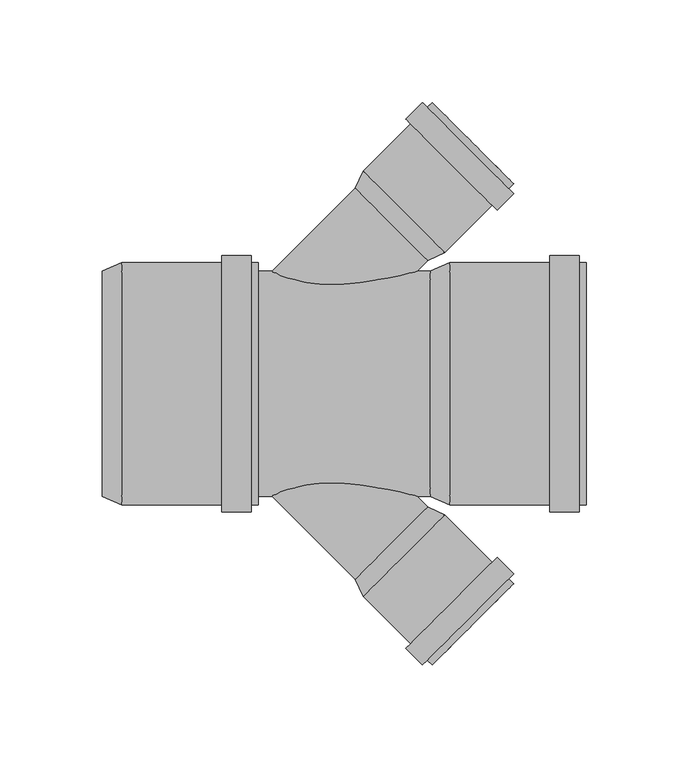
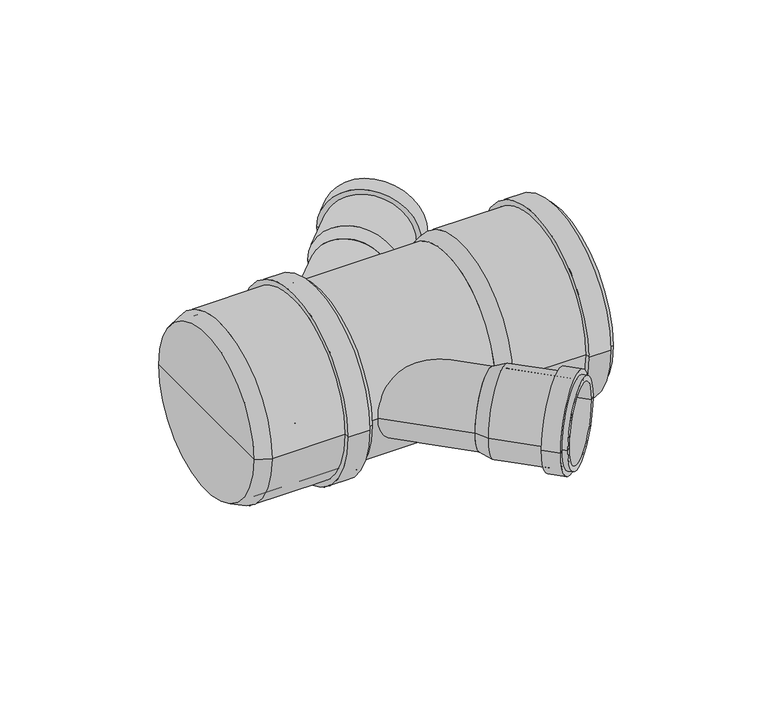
"""IFC4 building model written with IfcOpenShell, lengths in millimetres: pipe fitting geometry, pf_HTDA : pf_HTDA."""

from ifc_helpers import new_model, si_unit, point, frame, origin, origin_2d, place, context, project, spatial, polyline, circle_curve, trimmed, segment, composite_curve, outline, extrude, source, transform, mapped, element, save
from ifc_brep_helpers import plane_surface, cylinder_surface, revolved_surface, advanced_brep


def pipe_fitting_c0a3192c(model_context):
    return source(origin(), model_context, "Body", "SolidModel", [
        advanced_brep(
        [(95.5301261, 60.1747871, 0.0), (60.1747871, 95.5301261, 0.0), (63.9931637, 103.7325648, 0.0), (103.7325648, 63.9931637, 0.0), (77.8524566, 77.8524566, 0.0), (137.3201369, 97.5807358, 0.0), (97.5807358, 137.3201369, 0.0), (99.7727668, 135.1281059, 0.0), (135.1281059, 99.7727668, 0.0), (134.9159739, 95.1765727, 0.0), (95.1765727, 134.9159739, 0.0), (137.3201369, 92.7724097, 0.0), (92.7724097, 137.3201369, 0.0), (129.2591196, 84.7113924, 0.0), (84.7113924, 129.2591196, 0.0), (126.8549565, 87.1155554, 0.0), (87.1155554, 126.8549565, 0.0), (101.5405338, 66.1851947, 0.0), (66.1851947, 101.5405338, 0.0), (83.8628642, 83.8628642, 0.0)],
        [
            (0, 1, circle_curve(frame((77.8524566, 77.8524566, 0.0), z_axis=(0.707106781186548, 0.707106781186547, 0.0), x_axis=(-0.707106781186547, 0.707106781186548, 0.0)), 25.0)),
            (1, 2),
            (2, 3, circle_curve(frame((83.8628642, 83.8628642, 0.0), z_axis=(-0.707106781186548, -0.707106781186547, 0.0), x_axis=(-0.707106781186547, 0.707106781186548, 0.0)), 28.1)),
            (3, 0),
            (1, 0, circle_curve(frame((77.8524566, 77.8524566, 0.0), z_axis=(0.707106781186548, 0.707106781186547, 0.0), x_axis=(-0.707106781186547, 0.707106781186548, 0.0)), 25.0)),
            (3, 2, circle_curve(frame((83.8628642, 83.8628642, 0.0), z_axis=(-0.707106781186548, -0.707106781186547, 0.0), x_axis=(-0.707106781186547, 0.707106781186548, 0.0)), 28.1)),
            (4, 1),
            (0, 4),
            (5, 6, circle_curve(frame((117.4504364, 117.4504364, 0.0), z_axis=(0.707106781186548, 0.707106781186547, 0.0), x_axis=(-0.707106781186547, 0.707106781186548, 0.0)), 28.1)),
            (6, 7),
            (7, 8, circle_curve(frame((117.4504364, 117.4504364, 0.0), z_axis=(-0.707106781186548, -0.707106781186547, 0.0), x_axis=(-0.707106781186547, 0.707106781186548, 0.0)), 25.0)),
            (8, 5),
            (6, 5, circle_curve(frame((117.4504364, 117.4504364, 0.0), z_axis=(0.707106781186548, 0.707106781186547, 0.0), x_axis=(-0.707106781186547, 0.707106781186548, 0.0)), 28.1)),
            (8, 7, circle_curve(frame((117.4504364, 117.4504364, 0.0), z_axis=(-0.707106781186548, -0.707106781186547, 0.0), x_axis=(-0.707106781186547, 0.707106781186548, 0.0)), 25.0)),
            (9, 10, circle_curve(frame((115.0462733, 115.0462733, 0.0), z_axis=(0.707106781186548, 0.707106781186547, 0.0), x_axis=(-0.707106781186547, 0.707106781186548, 0.0)), 28.1)),
            (10, 6),
            (5, 9),
            (10, 9, circle_curve(frame((115.0462733, 115.0462733, 0.0), z_axis=(0.707106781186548, 0.707106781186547, 0.0), x_axis=(-0.707106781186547, 0.707106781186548, 0.0)), 28.1)),
            (11, 12, circle_curve(frame((115.0462733, 115.0462733, 0.0), z_axis=(0.707106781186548, 0.707106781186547, 0.0), x_axis=(-0.707106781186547, 0.707106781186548, 0.0)), 31.5)),
            (12, 10),
            (9, 11),
            (12, 11, circle_curve(frame((115.0462733, 115.0462733, 0.0), z_axis=(0.707106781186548, 0.707106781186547, 0.0), x_axis=(-0.707106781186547, 0.707106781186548, 0.0)), 31.5)),
            (13, 14, circle_curve(frame((106.985256, 106.985256, 0.0), z_axis=(0.707106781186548, 0.707106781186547, 0.0), x_axis=(-0.707106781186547, 0.707106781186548, 0.0)), 31.5)),
            (14, 12),
            (11, 13),
            (14, 13, circle_curve(frame((106.985256, 106.985256, 0.0), z_axis=(0.707106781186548, 0.707106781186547, 0.0), x_axis=(-0.707106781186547, 0.707106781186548, 0.0)), 31.5)),
            (15, 16, circle_curve(frame((106.985256, 106.985256, 0.0), z_axis=(0.707106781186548, 0.707106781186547, 0.0), x_axis=(-0.707106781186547, 0.707106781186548, 0.0)), 28.1)),
            (16, 14),
            (13, 15),
            (16, 15, circle_curve(frame((106.985256, 106.985256, 0.0), z_axis=(0.707106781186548, 0.707106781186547, 0.0), x_axis=(-0.707106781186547, 0.707106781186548, 0.0)), 28.1)),
            (2, 16),
            (15, 3),
            (17, 18, circle_curve(frame((83.8628642, 83.8628642, 0.0), z_axis=(0.707106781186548, 0.707106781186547, 0.0), x_axis=(-0.707106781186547, 0.707106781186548, 0.0)), 25.0)),
            (18, 19),
            (19, 17),
            (18, 17, circle_curve(frame((83.8628642, 83.8628642, 0.0), z_axis=(0.707106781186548, 0.707106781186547, 0.0), x_axis=(-0.707106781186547, 0.707106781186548, 0.0)), 25.0)),
            (7, 18),
            (17, 8),
        ],
        [
            revolved_surface(polyline([(63.9931637, 103.7325648, 0.0), (60.1747871, 95.5301261, 0.0)]), (77.8524566, 77.8524566, 0.0), (-0.707106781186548, -0.707106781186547, 0.0)),
            plane_surface(frame((77.8524566, 77.8524566, 0.0), z_axis=(-0.707106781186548, -0.707106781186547, 0.0), x_axis=(-0.707106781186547, 0.707106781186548, 0.0))),
            plane_surface(frame((117.4504364, 117.4504364, 0.0), z_axis=(0.707106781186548, 0.707106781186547, 0.0), x_axis=(-0.707106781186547, 0.707106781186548, 0.0))),
            cylinder_surface(frame((77.8524566, 77.8524566, 0.0), z_axis=(-0.707106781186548, -0.707106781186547, 0.0), x_axis=(-0.707106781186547, 0.707106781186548, 0.0)), 28.1),
            plane_surface(frame((115.0462733, 115.0462733, 0.0), z_axis=(0.707106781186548, 0.707106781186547, 0.0), x_axis=(-0.707106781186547, 0.707106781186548, 0.0))),
            cylinder_surface(frame((77.8524566, 77.8524566, 0.0), z_axis=(-0.707106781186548, -0.707106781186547, 0.0), x_axis=(-0.707106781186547, 0.707106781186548, 0.0)), 31.5),
            plane_surface(frame((106.985256, 106.985256, 0.0), z_axis=(-0.707106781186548, -0.707106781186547, 0.0), x_axis=(-0.707106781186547, 0.707106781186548, 0.0))),
            plane_surface(frame((83.8628642, 83.8628642, 0.0), z_axis=(0.707106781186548, 0.707106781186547, 0.0), x_axis=(-0.707106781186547, 0.707106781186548, 0.0))),
            revolved_surface(polyline([(66.18519467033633, 101.54053372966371, 0.0), (99.77276687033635, 135.12810592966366, 0.0)]), (77.8524566, 77.8524566, 0.0), (-0.707106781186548, -0.707106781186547, 0.0)),
        ],
        [
            (0, [[1, 2, 3, 4]]),
            (0, [[5, -4, 6, -2]]),
            (1, [[7, -1, 8]]),
            (1, [[-8, -5, -7]]),
            (2, [[9, 10, 11, 12]]),
            (2, [[13, -12, 14, -10]]),
            (3, [[15, 16, -9, 17]]),
            (3, [[18, -17, -13, -16]]),
            (4, [[19, 20, -15, 21]]),
            (4, [[22, -21, -18, -20]]),
            (5, [[23, 24, -19, 25]]),
            (5, [[26, -25, -22, -24]]),
            (6, [[27, 28, -23, 29]]),
            (6, [[30, -29, -26, -28]]),
            (3, [[-3, 31, -27, 32]]),
            (3, [[-6, -32, -30, -31]]),
            (7, [[33, 34, 35]]),
            (7, [[36, -35, -34]]),
            (8, [[-11, 37, -33, 38]]),
            (8, [[-14, -38, -36, -37]]),
        ],
    ),
        advanced_brep(
        [(60.1747871, -95.5301261, 0.0), (95.5301261, -60.1747871, 0.0), (103.7325648, -63.9931637, 0.0), (63.9931637, -103.7325648, 0.0), (77.8524566, -77.8524566, 0.0), (97.5807358, -137.3201369, 0.0), (137.3201369, -97.5807358, 0.0), (135.1281059, -99.7727668, 0.0), (99.7727668, -135.1281059, 0.0), (95.1765727, -134.9159739, 0.0), (134.9159739, -95.1765727, 0.0), (92.7724097, -137.3201369, 0.0), (137.3201369, -92.7724097, 0.0), (84.7113924, -129.2591196, 0.0), (129.2591196, -84.7113924, 0.0), (87.1155554, -126.8549565, 0.0), (126.8549565, -87.1155554, 0.0), (66.1851947, -101.5405338, 0.0), (101.5405338, -66.1851947, 0.0), (83.8628642, -83.8628642, 0.0)],
        [
            (0, 1, circle_curve(frame((77.8524566, -77.8524566, 0.0), z_axis=(0.7071067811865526, -0.7071067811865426, 0.0), x_axis=(0.7071067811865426, 0.7071067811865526, 0.0)), 25.0)),
            (1, 2),
            (2, 3, circle_curve(frame((83.8628642, -83.8628642, 0.0), z_axis=(-0.7071067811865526, 0.7071067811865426, 0.0), x_axis=(0.7071067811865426, 0.7071067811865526, 0.0)), 28.1)),
            (3, 0),
            (1, 0, circle_curve(frame((77.8524566, -77.8524566, 0.0), z_axis=(0.7071067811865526, -0.7071067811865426, 0.0), x_axis=(0.7071067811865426, 0.7071067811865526, 0.0)), 25.0)),
            (3, 2, circle_curve(frame((83.8628642, -83.8628642, 0.0), z_axis=(-0.7071067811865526, 0.7071067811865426, 0.0), x_axis=(0.7071067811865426, 0.7071067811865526, 0.0)), 28.1)),
            (4, 1),
            (0, 4),
            (5, 6, circle_curve(frame((117.4504364, -117.4504364, 0.0), z_axis=(0.7071067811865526, -0.7071067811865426, 0.0), x_axis=(0.7071067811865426, 0.7071067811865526, 0.0)), 28.1)),
            (6, 7),
            (7, 8, circle_curve(frame((117.4504364, -117.4504364, 0.0), z_axis=(-0.7071067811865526, 0.7071067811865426, 0.0), x_axis=(0.7071067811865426, 0.7071067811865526, 0.0)), 25.0)),
            (8, 5),
            (6, 5, circle_curve(frame((117.4504364, -117.4504364, 0.0), z_axis=(0.7071067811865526, -0.7071067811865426, 0.0), x_axis=(0.7071067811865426, 0.7071067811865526, 0.0)), 28.1)),
            (8, 7, circle_curve(frame((117.4504364, -117.4504364, 0.0), z_axis=(-0.7071067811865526, 0.7071067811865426, 0.0), x_axis=(0.7071067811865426, 0.7071067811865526, 0.0)), 25.0)),
            (9, 10, circle_curve(frame((115.0462733, -115.0462733, 0.0), z_axis=(0.7071067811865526, -0.7071067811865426, 0.0), x_axis=(0.7071067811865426, 0.7071067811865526, 0.0)), 28.1)),
            (10, 6),
            (5, 9),
            (10, 9, circle_curve(frame((115.0462733, -115.0462733, 0.0), z_axis=(0.7071067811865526, -0.7071067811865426, 0.0), x_axis=(0.7071067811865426, 0.7071067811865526, 0.0)), 28.1)),
            (11, 12, circle_curve(frame((115.0462733, -115.0462733, 0.0), z_axis=(0.7071067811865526, -0.7071067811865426, 0.0), x_axis=(0.7071067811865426, 0.7071067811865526, 0.0)), 31.5)),
            (12, 10),
            (9, 11),
            (12, 11, circle_curve(frame((115.0462733, -115.0462733, 0.0), z_axis=(0.7071067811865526, -0.7071067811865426, 0.0), x_axis=(0.7071067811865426, 0.7071067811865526, 0.0)), 31.5)),
            (13, 14, circle_curve(frame((106.985256, -106.985256, 0.0), z_axis=(0.7071067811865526, -0.7071067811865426, 0.0), x_axis=(0.7071067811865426, 0.7071067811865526, 0.0)), 31.5)),
            (14, 12),
            (11, 13),
            (14, 13, circle_curve(frame((106.985256, -106.985256, 0.0), z_axis=(0.7071067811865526, -0.7071067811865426, 0.0), x_axis=(0.7071067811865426, 0.7071067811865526, 0.0)), 31.5)),
            (15, 16, circle_curve(frame((106.985256, -106.985256, 0.0), z_axis=(0.7071067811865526, -0.7071067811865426, 0.0), x_axis=(0.7071067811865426, 0.7071067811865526, 0.0)), 28.1)),
            (16, 14),
            (13, 15),
            (16, 15, circle_curve(frame((106.985256, -106.985256, 0.0), z_axis=(0.7071067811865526, -0.7071067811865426, 0.0), x_axis=(0.7071067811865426, 0.7071067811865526, 0.0)), 28.1)),
            (2, 16),
            (15, 3),
            (17, 18, circle_curve(frame((83.8628642, -83.8628642, 0.0), z_axis=(0.7071067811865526, -0.7071067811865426, 0.0), x_axis=(0.7071067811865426, 0.7071067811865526, 0.0)), 25.0)),
            (18, 19),
            (19, 17),
            (18, 17, circle_curve(frame((83.8628642, -83.8628642, 0.0), z_axis=(0.7071067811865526, -0.7071067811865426, 0.0), x_axis=(0.7071067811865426, 0.7071067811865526, 0.0)), 25.0)),
            (7, 18),
            (17, 8),
        ],
        [
            revolved_surface(polyline([(103.7325648, -63.9931637, 0.0), (95.5301261, -60.1747871, 0.0)]), (77.8524566, -77.8524566, 0.0), (-0.7071067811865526, 0.7071067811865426, 0.0)),
            plane_surface(frame((77.8524566, -77.8524566, 0.0), z_axis=(-0.7071067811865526, 0.7071067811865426, 0.0), x_axis=(0.7071067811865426, 0.7071067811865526, 0.0))),
            plane_surface(frame((117.4504364, -117.4504364, 0.0), z_axis=(0.7071067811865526, -0.7071067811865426, 0.0), x_axis=(0.7071067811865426, 0.7071067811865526, 0.0))),
            cylinder_surface(frame((77.8524566, -77.8524566, 0.0), z_axis=(-0.7071067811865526, 0.7071067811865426, 0.0), x_axis=(0.7071067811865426, 0.7071067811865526, 0.0)), 28.1),
            plane_surface(frame((115.0462733, -115.0462733, 0.0), z_axis=(0.7071067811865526, -0.7071067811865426, 0.0), x_axis=(0.7071067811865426, 0.7071067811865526, 0.0))),
            cylinder_surface(frame((77.8524566, -77.8524566, 0.0), z_axis=(-0.7071067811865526, 0.7071067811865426, 0.0), x_axis=(0.7071067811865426, 0.7071067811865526, 0.0)), 31.5),
            plane_surface(frame((106.985256, -106.985256, 0.0), z_axis=(-0.7071067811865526, 0.7071067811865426, 0.0), x_axis=(0.7071067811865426, 0.7071067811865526, 0.0))),
            plane_surface(frame((83.8628642, -83.8628642, 0.0), z_axis=(0.7071067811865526, -0.7071067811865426, 0.0), x_axis=(0.7071067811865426, 0.7071067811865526, 0.0))),
            revolved_surface(polyline([(101.54053372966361, -66.18519467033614, 0.0), (135.12810592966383, -99.77276687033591, 0.0)]), (77.8524566, -77.8524566, 0.0), (-0.7071067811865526, 0.7071067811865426, 0.0)),
        ],
        [
            (0, [[1, 2, 3, 4]]),
            (0, [[5, -4, 6, -2]]),
            (1, [[7, -1, 8]]),
            (1, [[-8, -5, -7]]),
            (2, [[9, 10, 11, 12]]),
            (2, [[13, -12, 14, -10]]),
            (3, [[15, 16, -9, 17]]),
            (3, [[18, -17, -13, -16]]),
            (4, [[19, 20, -15, 21]]),
            (4, [[22, -21, -18, -20]]),
            (5, [[23, 24, -19, 25]]),
            (5, [[26, -25, -22, -24]]),
            (6, [[27, 28, -23, 29]]),
            (6, [[30, -29, -26, -28]]),
            (3, [[-3, 31, -27, 32]]),
            (3, [[-6, -32, -30, -31]]),
            (7, [[33, 34, 35]]),
            (7, [[36, -35, -34]]),
            (8, [[-11, 37, -33, 38]]),
            (8, [[-14, -38, -36, -37]]),
        ],
    ),
        advanced_brep(
        [(96.8, -55.0, 0.0), (96.8, 55.0, 0.0), (106.3, 59.1, 0.0), (106.3, -59.1, 0.0), (96.8, 0.0, 0.0), (172.8, -59.1, 0.0), (172.8, 59.1, 0.0), (172.8, 55.0, 0.0), (172.8, -55.0, 0.0), (169.4, -59.1, 0.0), (169.4, 59.1, 0.0), (169.4, -62.5, 0.0), (169.4, 62.5, 0.0), (154.9, -62.5, 0.0), (154.9, 62.5, 0.0), (154.9, -59.1, 0.0), (154.9, 59.1, 0.0), (106.3, -55.0, 0.0), (106.3, 55.0, 0.0), (106.3, 0.0, 0.0)],
        [
            (0, 1, circle_curve(frame((96.8, 0.0, 0.0), z_axis=(1.0, 0.0, 0.0), x_axis=(0.0, 1.0, 0.0)), 55.0)),
            (1, 2),
            (2, 3, circle_curve(frame((106.3, 0.0, 0.0), z_axis=(-1.0, 0.0, 0.0), x_axis=(0.0, 1.0, 0.0)), 59.1)),
            (3, 0),
            (1, 0, circle_curve(frame((96.8, 0.0, 0.0), z_axis=(1.0, 0.0, 0.0), x_axis=(0.0, 1.0, 0.0)), 55.0)),
            (3, 2, circle_curve(frame((106.3, 0.0, 0.0), z_axis=(-1.0, 0.0, 0.0), x_axis=(0.0, 1.0, 0.0)), 59.1)),
            (4, 1),
            (0, 4),
            (5, 6, circle_curve(frame((172.8, 0.0, 0.0), z_axis=(1.0, 0.0, 0.0), x_axis=(0.0, 1.0, 0.0)), 59.1)),
            (6, 7),
            (7, 8, circle_curve(frame((172.8, 0.0, 0.0), z_axis=(-1.0, 0.0, 0.0), x_axis=(0.0, 1.0, 0.0)), 55.0)),
            (8, 5),
            (6, 5, circle_curve(frame((172.8, 0.0, 0.0), z_axis=(1.0, 0.0, 0.0), x_axis=(0.0, 1.0, 0.0)), 59.1)),
            (8, 7, circle_curve(frame((172.8, 0.0, 0.0), z_axis=(-1.0, 0.0, 0.0), x_axis=(0.0, 1.0, 0.0)), 55.0)),
            (9, 10, circle_curve(frame((169.4, 0.0, 0.0), z_axis=(1.0, 0.0, 0.0), x_axis=(0.0, 1.0, 0.0)), 59.1)),
            (10, 6),
            (5, 9),
            (10, 9, circle_curve(frame((169.4, 0.0, 0.0), z_axis=(1.0, 0.0, 0.0), x_axis=(0.0, 1.0, 0.0)), 59.1)),
            (11, 12, circle_curve(frame((169.4, 0.0, 0.0), z_axis=(1.0, 0.0, 0.0), x_axis=(0.0, 1.0, 0.0)), 62.5)),
            (12, 10),
            (9, 11),
            (12, 11, circle_curve(frame((169.4, 0.0, 0.0), z_axis=(1.0, 0.0, 0.0), x_axis=(0.0, 1.0, 0.0)), 62.5)),
            (13, 14, circle_curve(frame((154.9, 0.0, 0.0), z_axis=(1.0, 0.0, 0.0), x_axis=(0.0, 1.0, 0.0)), 62.5)),
            (14, 12),
            (11, 13),
            (14, 13, circle_curve(frame((154.9, 0.0, 0.0), z_axis=(1.0, 0.0, 0.0), x_axis=(0.0, 1.0, 0.0)), 62.5)),
            (15, 16, circle_curve(frame((154.9, 0.0, 0.0), z_axis=(1.0, 0.0, 0.0), x_axis=(0.0, 1.0, 0.0)), 59.1)),
            (16, 14),
            (13, 15),
            (16, 15, circle_curve(frame((154.9, 0.0, 0.0), z_axis=(1.0, 0.0, 0.0), x_axis=(0.0, 1.0, 0.0)), 59.1)),
            (2, 16),
            (15, 3),
            (17, 18, circle_curve(frame((106.3, 0.0, 0.0), z_axis=(1.0, 0.0, 0.0), x_axis=(0.0, 1.0, 0.0)), 55.0)),
            (18, 19),
            (19, 17),
            (18, 17, circle_curve(frame((106.3, 0.0, 0.0), z_axis=(1.0, 0.0, 0.0), x_axis=(0.0, 1.0, 0.0)), 55.0)),
            (7, 18),
            (17, 8),
        ],
        [
            revolved_surface(polyline([(106.3, 59.1, 0.0), (96.8, 55.0, 0.0)]), (96.8, 0.0, 0.0), (-1.0, 0.0, 0.0)),
            plane_surface(frame((96.8, 0.0, 0.0), z_axis=(-1.0, 0.0, 0.0), x_axis=(0.0, 1.0, 0.0))),
            plane_surface(frame((172.8, 0.0, 0.0), z_axis=(1.0, 0.0, 0.0), x_axis=(0.0, 1.0, 0.0))),
            cylinder_surface(frame((96.8, 0.0, 0.0), z_axis=(-1.0, 0.0, 0.0), x_axis=(0.0, 1.0, 0.0)), 59.1),
            plane_surface(frame((169.4, 0.0, 0.0), z_axis=(1.0, 0.0, 0.0), x_axis=(0.0, 1.0, 0.0))),
            cylinder_surface(frame((96.8, 0.0, 0.0), z_axis=(-1.0, 0.0, 0.0), x_axis=(0.0, 1.0, 0.0)), 62.5),
            plane_surface(frame((154.9, 0.0, 0.0), z_axis=(-1.0, 0.0, 0.0), x_axis=(0.0, 1.0, 0.0))),
            plane_surface(frame((106.3, 0.0, 0.0), z_axis=(1.0, 0.0, 0.0), x_axis=(0.0, 1.0, 0.0))),
            revolved_surface(polyline([(106.3, 55.0, 0.0), (172.8, 55.0, 0.0)]), (96.8, 0.0, 0.0), (-1.0, 0.0, 0.0)),
        ],
        [
            (0, [[1, 2, 3, 4]]),
            (0, [[5, -4, 6, -2]]),
            (1, [[7, -1, 8]]),
            (1, [[-8, -5, -7]]),
            (2, [[9, 10, 11, 12]]),
            (2, [[13, -12, 14, -10]]),
            (3, [[15, 16, -9, 17]]),
            (3, [[18, -17, -13, -16]]),
            (4, [[19, 20, -15, 21]]),
            (4, [[22, -21, -18, -20]]),
            (5, [[23, 24, -19, 25]]),
            (5, [[26, -25, -22, -24]]),
            (6, [[27, 28, -23, 29]]),
            (6, [[30, -29, -26, -28]]),
            (3, [[-3, 31, -27, 32]]),
            (3, [[-6, -32, -30, -31]]),
            (7, [[33, 34, 35]]),
            (7, [[36, -35, -34]]),
            (8, [[-11, 37, -33, 38]]),
            (8, [[-14, -38, -36, -37]]),
        ],
    ),
        advanced_brep(
        [(-63.2, -55.0, 0.0), (-63.2, 55.0, 0.0), (-53.7, 59.1, 0.0), (-53.7, -59.1, 0.0), (-63.2, 0.0, 0.0), (12.8, -59.1, 0.0), (12.8, 59.1, 0.0), (12.8, 55.0, 0.0), (12.8, -55.0, 0.0), (9.4, -59.1, 0.0), (9.4, 59.1, 0.0), (9.4, -62.5, 0.0), (9.4, 62.5, 0.0), (-5.1, -62.5, 0.0), (-5.1, 62.5, 0.0), (-5.1, -59.1, 0.0), (-5.1, 59.1, 0.0), (-53.7, -55.0, 0.0), (-53.7, 55.0, 0.0), (-53.7, 0.0, 0.0)],
        [
            (0, 1, circle_curve(frame((-63.2, 0.0, 0.0), z_axis=(1.0, 0.0, 0.0), x_axis=(0.0, 1.0, 0.0)), 55.0)),
            (1, 2),
            (2, 3, circle_curve(frame((-53.7, 0.0, 0.0), z_axis=(-1.0, 0.0, 0.0), x_axis=(0.0, 1.0, 0.0)), 59.1)),
            (3, 0),
            (1, 0, circle_curve(frame((-63.2, 0.0, 0.0), z_axis=(1.0, 0.0, 0.0), x_axis=(0.0, 1.0, 0.0)), 55.0)),
            (3, 2, circle_curve(frame((-53.7, 0.0, 0.0), z_axis=(-1.0, 0.0, 0.0), x_axis=(0.0, 1.0, 0.0)), 59.1)),
            (4, 1),
            (0, 4),
            (5, 6, circle_curve(frame((12.8, 0.0, 0.0), z_axis=(1.0, 0.0, 0.0), x_axis=(0.0, 1.0, 0.0)), 59.1)),
            (6, 7),
            (7, 8, circle_curve(frame((12.8, 0.0, 0.0), z_axis=(-1.0, 0.0, 0.0), x_axis=(0.0, 1.0, 0.0)), 55.0)),
            (8, 5),
            (6, 5, circle_curve(frame((12.8, 0.0, 0.0), z_axis=(1.0, 0.0, 0.0), x_axis=(0.0, 1.0, 0.0)), 59.1)),
            (8, 7, circle_curve(frame((12.8, 0.0, 0.0), z_axis=(-1.0, 0.0, 0.0), x_axis=(0.0, 1.0, 0.0)), 55.0)),
            (9, 10, circle_curve(frame((9.4, 0.0, 0.0), z_axis=(1.0, 0.0, 0.0), x_axis=(0.0, 1.0, 0.0)), 59.1)),
            (10, 6),
            (5, 9),
            (10, 9, circle_curve(frame((9.4, 0.0, 0.0), z_axis=(1.0, 0.0, 0.0), x_axis=(0.0, 1.0, 0.0)), 59.1)),
            (11, 12, circle_curve(frame((9.4, 0.0, 0.0), z_axis=(1.0, 0.0, 0.0), x_axis=(0.0, 1.0, 0.0)), 62.5)),
            (12, 10),
            (9, 11),
            (12, 11, circle_curve(frame((9.4, 0.0, 0.0), z_axis=(1.0, 0.0, 0.0), x_axis=(0.0, 1.0, 0.0)), 62.5)),
            (13, 14, circle_curve(frame((-5.1, 0.0, 0.0), z_axis=(1.0, 0.0, 0.0), x_axis=(0.0, 1.0, 0.0)), 62.5)),
            (14, 12),
            (11, 13),
            (14, 13, circle_curve(frame((-5.1, 0.0, 0.0), z_axis=(1.0, 0.0, 0.0), x_axis=(0.0, 1.0, 0.0)), 62.5)),
            (15, 16, circle_curve(frame((-5.1, 0.0, 0.0), z_axis=(1.0, 0.0, 0.0), x_axis=(0.0, 1.0, 0.0)), 59.1)),
            (16, 14),
            (13, 15),
            (16, 15, circle_curve(frame((-5.1, 0.0, 0.0), z_axis=(1.0, 0.0, 0.0), x_axis=(0.0, 1.0, 0.0)), 59.1)),
            (2, 16),
            (15, 3),
            (17, 18, circle_curve(frame((-53.7, 0.0, 0.0), z_axis=(1.0, 0.0, 0.0), x_axis=(0.0, 1.0, 0.0)), 55.0)),
            (18, 19),
            (19, 17),
            (18, 17, circle_curve(frame((-53.7, 0.0, 0.0), z_axis=(1.0, 0.0, 0.0), x_axis=(0.0, 1.0, 0.0)), 55.0)),
            (7, 18),
            (17, 8),
        ],
        [
            revolved_surface(polyline([(-53.7, 59.1, 0.0), (-63.2, 55.0, 0.0)]), (-63.2, 0.0, 0.0), (-1.0, 0.0, 0.0)),
            plane_surface(frame((-63.2, 0.0, 0.0), z_axis=(-1.0, 0.0, 0.0), x_axis=(0.0, 1.0, 0.0))),
            plane_surface(frame((12.8, 0.0, 0.0), z_axis=(1.0, 0.0, 0.0), x_axis=(0.0, 1.0, 0.0))),
            cylinder_surface(frame((-63.2, 0.0, 0.0), z_axis=(-1.0, 0.0, 0.0), x_axis=(0.0, 1.0, 0.0)), 59.1),
            plane_surface(frame((9.4, 0.0, 0.0), z_axis=(1.0, 0.0, 0.0), x_axis=(0.0, 1.0, 0.0))),
            cylinder_surface(frame((-63.2, 0.0, 0.0), z_axis=(-1.0, 0.0, 0.0), x_axis=(0.0, 1.0, 0.0)), 62.5),
            plane_surface(frame((-5.1, 0.0, 0.0), z_axis=(-1.0, 0.0, 0.0), x_axis=(0.0, 1.0, 0.0))),
            plane_surface(frame((-53.7, 0.0, 0.0), z_axis=(1.0, 0.0, 0.0), x_axis=(0.0, 1.0, 0.0))),
            revolved_surface(polyline([(-53.7, 55.0, 0.0), (12.799999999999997, 55.0, 0.0)]), (-63.2, 0.0, 0.0), (-1.0, 0.0, 0.0)),
        ],
        [
            (0, [[1, 2, 3, 4]]),
            (0, [[5, -4, 6, -2]]),
            (1, [[7, -1, 8]]),
            (1, [[-8, -5, -7]]),
            (2, [[9, 10, 11, 12]]),
            (2, [[13, -12, 14, -10]]),
            (3, [[15, 16, -9, 17]]),
            (3, [[18, -17, -13, -16]]),
            (4, [[19, 20, -15, 21]]),
            (4, [[22, -21, -18, -20]]),
            (5, [[23, 24, -19, 25]]),
            (5, [[26, -25, -22, -24]]),
            (6, [[27, 28, -23, 29]]),
            (6, [[30, -29, -26, -28]]),
            (3, [[-3, 31, -27, 32]]),
            (3, [[-6, -32, -30, -31]]),
            (7, [[33, 34, 35]]),
            (7, [[36, -35, -34]]),
            (8, [[-11, 37, -33, 38]]),
            (8, [[-14, -38, -36, -37]]),
        ],
    ),
        extrude(outline(composite_curve([segment(trimmed(circle_curve(origin_2d(), 25.0), [point((0.0, 25.0))], [point((0.0, -25.0))], False, "CARTESIAN"), True, "CONTINUOUS"), segment(trimmed(circle_curve(origin_2d(), 25.0), [point((0.0, -25.0))], [point((0.0, 25.0))], False, "CARTESIAN"), True, "CONTINUOUS")], self_intersect=False)), frame((0.0, 0.0, 0.0), z_axis=(0.7071067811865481, 0.707106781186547, 0.0), x_axis=(0.0, 0.0, 1.0)), (0.0, 0.0, 1.0), 110.1),
        extrude(outline(composite_curve([segment(trimmed(circle_curve(origin_2d(), 25.0), [point((0.0, -25.0))], [point((0.0, 25.0))], False, "CARTESIAN"), True, "CONTINUOUS"), segment(trimmed(circle_curve(origin_2d(), 25.0), [point((0.0, 25.0))], [point((0.0, -25.0))], False, "CARTESIAN"), True, "CONTINUOUS")], self_intersect=False)), frame((77.8524566, -77.8524566, 0.0), z_axis=(-0.7071067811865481, 0.707106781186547, 0.0), x_axis=(0.0, 0.0, 1.0)), (0.0, 0.0, 1.0), 110.1),
        extrude(outline(composite_curve([segment(trimmed(circle_curve(origin_2d(), 55.0), [point((-55.0, 0.0))], [point((55.0, 0.0))], False, "CARTESIAN"), True, "CONTINUOUS"), segment(trimmed(circle_curve(origin_2d(), 55.0), [point((55.0, 0.0))], [point((-55.0, 0.0))], False, "CARTESIAN"), True, "CONTINUOUS")], self_intersect=False)), frame((-53.7, 0.0, 0.0), z_axis=(1.0, 0.0, 0.0), x_axis=(0.0, 1.0, 0.0)), (0.0, 0.0, 1.0), 150.5),
    ])


if __name__ == "__main__":
    model = new_model("IFC4")
    model_context = context("Model", 3, world=origin())
    ifc_project = project(units=[si_unit("LENGTHUNIT", "METRE", prefix="MILLI")], contexts=[model_context])
    site = spatial("IfcSite", under=ifc_project)
    building = spatial("IfcBuilding", under=site)
    placement = place(None, origin())
    pipe_fitting_shape = pipe_fitting_c0a3192c(model_context)
    element("IfcPipeFitting", 1, ObjectType="pf_HTDA : pf_HTDA", at=placement, inside=building, context=model_context, shape_type="MappedRepresentation", body=[
        mapped(pipe_fitting_shape, transform((0.0, 0.0, 0.0), x_axis=(1.0, 0.0, 0.0), y_axis=(0.0, 1.0, 0.0), z_axis=(0.0, 0.0, 1.0))),
    ])
    save(model, "model.ifc")
